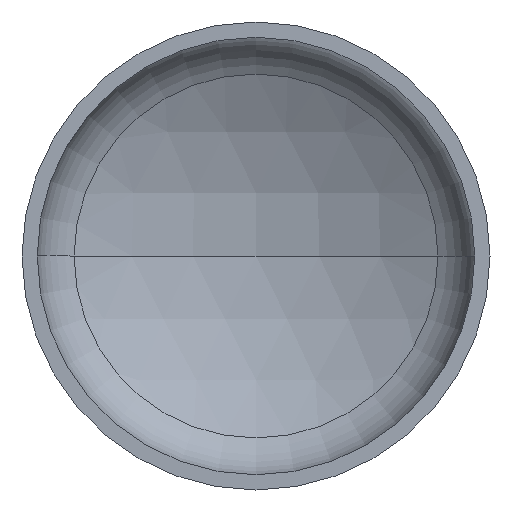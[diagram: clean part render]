
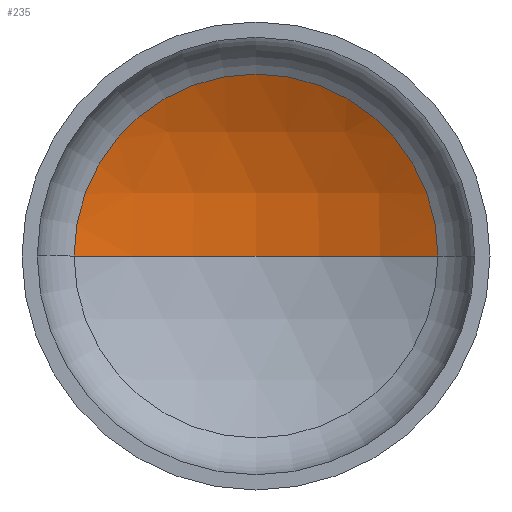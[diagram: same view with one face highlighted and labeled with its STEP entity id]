
A CAD part, front view. The second image highlights one B-rep face of the part: STEP entity #235.
In plain terms, the highlighted spherical face has radius 2560 mm.
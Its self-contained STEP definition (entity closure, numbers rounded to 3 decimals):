
#17 = VERTEX_POINT ( 'NONE', #278 ) ;
#19 = AXIS2_PLACEMENT_3D ( 'NONE', #76, #237, #240 ) ;
#22 = EDGE_LOOP ( 'NONE', ( #42, #131, #121 ) ) ;
#25 = AXIS2_PLACEMENT_3D ( 'NONE', #263, #390, #170 ) ;
#39 = AXIS2_PLACEMENT_3D ( 'NONE', #363, #382, #185 ) ;
#42 = ORIENTED_EDGE ( 'NONE', *, *, #392, .F. ) ;
#56 = CIRCLE ( 'NONE', #19, 2560. ) ;
#76 = CARTESIAN_POINT ( 'NONE',  ( 0., -1734.106, 0. ) ) ;
#121 = ORIENTED_EDGE ( 'NONE', *, *, #345, .T. ) ;
#125 = VERTEX_POINT ( 'NONE', #305 ) ;
#131 = ORIENTED_EDGE ( 'NONE', *, *, #348, .T. ) ;
#132 = VERTEX_POINT ( 'NONE', #214 ) ;
#134 = CARTESIAN_POINT ( 'NONE',  ( 0., -1734.106, 0. ) ) ;
#135 = CIRCLE ( 'NONE', #25, 1244.135 ) ;
#145 = SPHERICAL_SURFACE ( 'NONE', #39, 2560. ) ;
#156 = DIRECTION ( 'NONE',  ( 0., 0., 1. ) ) ;
#170 = DIRECTION ( 'NONE',  ( 1., 0., 0. ) ) ;
#185 = DIRECTION ( 'NONE',  ( -1., 0., 0. ) ) ;
#214 = CARTESIAN_POINT ( 'NONE',  ( 1244.135, 503.242, 0. ) ) ;
#221 = CIRCLE ( 'NONE', #261, 2560. ) ;
#235 = ADVANCED_FACE ( 'NONE', ( #262 ), #145, .F. ) ;
#237 = DIRECTION ( 'NONE',  ( 0., 0., -1. ) ) ;
#240 = DIRECTION ( 'NONE',  ( -1., 0., 0. ) ) ;
#261 = AXIS2_PLACEMENT_3D ( 'NONE', #134, #156, #320 ) ;
#262 = FACE_OUTER_BOUND ( 'NONE', #22, .T. ) ;
#263 = CARTESIAN_POINT ( 'NONE',  ( 0., 503.242, 0. ) ) ;
#278 = CARTESIAN_POINT ( 'NONE',  ( 0., 825.894, 0. ) ) ;
#305 = CARTESIAN_POINT ( 'NONE',  ( -1244.135, 503.242, 0. ) ) ;
#320 = DIRECTION ( 'NONE',  ( 1., 0., 0. ) ) ;
#345 = EDGE_CURVE ( 'NONE', #132, #125, #135, .T. ) ;
#348 = EDGE_CURVE ( 'NONE', #17, #132, #56, .T. ) ;
#363 = CARTESIAN_POINT ( 'NONE',  ( 0., -1734.106, 0. ) ) ;
#382 = DIRECTION ( 'NONE',  ( 0., 0., -1. ) ) ;
#390 = DIRECTION ( 'NONE',  ( 0., -1., 0. ) ) ;
#392 = EDGE_CURVE ( 'NONE', #17, #125, #221, .T. ) ;
